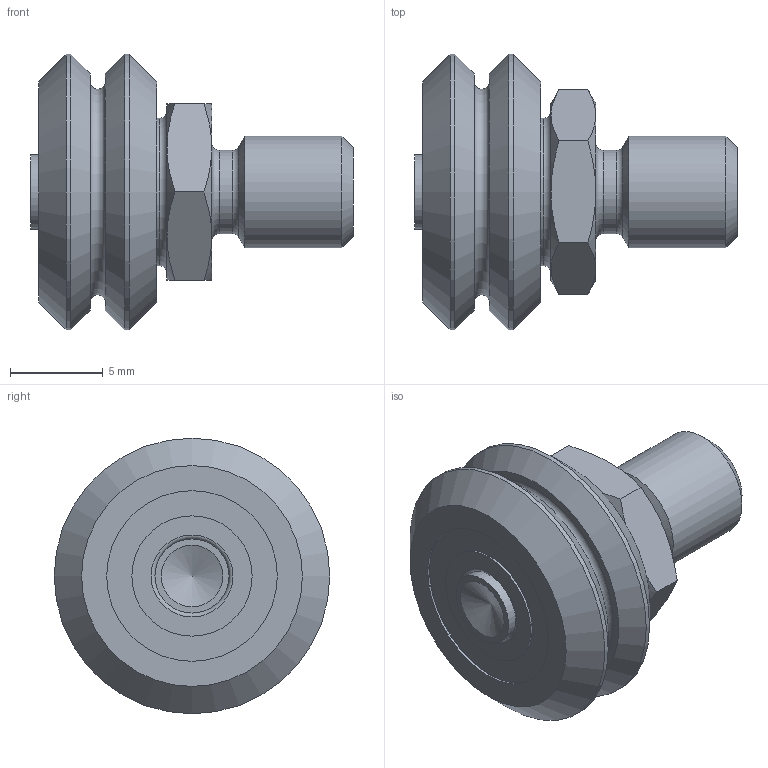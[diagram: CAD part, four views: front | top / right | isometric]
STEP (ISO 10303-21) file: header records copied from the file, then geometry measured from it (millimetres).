
FILE_DESCRIPTION( ( 'STEP AP214' ), '1' );
FILE_NAME( 'p:/temp/worker_32/temp/app_42_02019012316023303950546192d056f_000000_00_00_000000/format_0/SWSC0XA.stp', '2019-01-23T15:02:33', ( '' ), ( '' ), ' ', 'PARTsolutions', ' ' );
FILE_SCHEMA( ( 'AUTOMOTIVE_DESIGN { 1 0 10303 214 1 1 1 1 }' ) );
Length unit declared in the file: inch
Products named in the file (3): SWSC0XA; _SWSC0; _W0X
Assembly tree (2 placements, depth 2):
  SWSC0XA
    _SWSC0
    _W0X
Bounding box: 17.37 x 14.83 x 14.83 mm (x, y, z)
Volume: 1288.2 mm3; surface area: 1199.9 mm2
Topology: 2 solids, 2 shells, 64 faces, 116 edges, 69 vertices
Faces by surface type: plane 23, cone 19, cylinder 15, torus 7
Full cylindrical faces by diameter (mm): 3.99 x1, 4 x1, 4.496 x1, 6 x1, 6.223 x2, 6.477 x2, 7.925 x1, 9.182 x2, 9.436 x2, 14.834 x2
Entity records: 2048 total; most frequent: CARTESIAN_POINT 342, DIRECTION 252, ORIENTED_EDGE 172, AXIS2_PLACEMENT_3D 123, EDGE_LOOP 108, FACE_OUTER_BOUND 86, EDGE_CURVE 86, VERTEX_POINT 69
